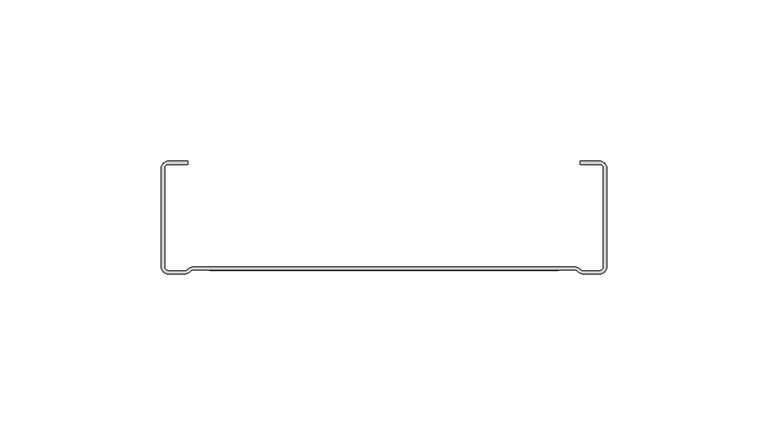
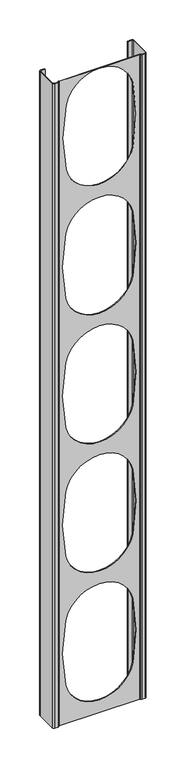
"""IFC4 building model written with IfcOpenShell, lengths in millimetres: proxy geometry, afs-LW-Stud-150 : afs-LW-Stud-150."""

from ifc_helpers import new_model, si_unit, frame, origin, place, context, project, spatial, polyline, circle_curve, source, transform, mapped, element, save
from ifc_brep_helpers import plane_surface, cylinder_surface, revolved_surface, advanced_brep


def generic_models_b1731cb6(model_context):
    return source(origin(), model_context, "Body", "AdvancedBrep", [
        advanced_brep(
        [(69.0, 32.75, 1040.0), (66.75, 35.0, 1040.0), (60.75, 35.0, 1040.0), (60.75, 34.0, 1040.0), (66.75, 34.0, 1040.0), (68.0, 32.75, 1040.0), (68.0, 2.25, 1040.0), (66.75, 1.0, 1040.0), (61.75, 1.0, 1040.0), (60.819723, 1.4150841, 1040.0), (59.0795419, 2.2, 1040.0), (0.0, 2.2, 1040.0), (-59.0795419, 2.2, 1040.0), (-60.819723, 1.4150841, 1040.0), (-61.75, 1.0, 1040.0), (-66.75, 1.0, 1040.0), (-68.0, 2.25, 1040.0), (-68.0, 32.75, 1040.0), (-66.75, 34.0, 1040.0), (-60.75, 34.0, 1040.0), (-60.75, 35.0, 1040.0), (-66.75, 35.0, 1040.0), (-69.0, 32.75, 1040.0), (-69.0, 2.25, 1040.0), (-66.75, 0.0, 1040.0), (-61.75, 0.0, 1040.0), (-60.0632084, 0.760962, 1040.0), (-59.0795419, 1.2, 1040.0), (0.0, 1.2, 1040.0), (59.0795419, 1.2, 1040.0), (60.0632084, 0.760962, 1040.0), (61.75, 0.0, 1040.0), (66.75, 0.0, 1040.0), (69.0, 2.25, 1040.0), (66.75, 35.0, 40.0), (69.0, 32.75, 40.0), (69.0, 2.25, 40.0), (66.75, 0.0, 40.0), (61.75, 0.0, 40.0), (60.0632084, 0.760962, 40.0), (59.0795419, 1.2, 40.0), (-59.0795419, 1.2, 40.0), (-60.0632084, 0.760962, 40.0), (-61.75, 0.0, 40.0), (-66.75, 0.0, 40.0), (-69.0, 2.25, 40.0), (-69.0, 32.75, 40.0), (-66.75, 35.0, 40.0), (-60.75, 35.0, 40.0), (-60.75, 34.0, 40.0), (-66.75, 34.0, 40.0), (-68.0, 32.75, 40.0), (-68.0, 2.25, 40.0), (-66.75, 1.0, 40.0), (-61.75, 1.0, 40.0), (-60.819723, 1.4150841, 40.0), (-59.0795419, 2.2, 40.0), (59.0795419, 2.2, 40.0), (60.819723, 1.4150841, 40.0), (61.75, 1.0, 40.0), (66.75, 1.0, 40.0), (68.0, 2.25, 40.0), (68.0, 32.75, 40.0), (66.75, 34.0, 40.0), (60.75, 34.0, 40.0), (60.75, 35.0, 40.0), (-49.009901, 2.2, 999.9009901), (-49.009901, 2.2, 900.0990099), (49.009901, 2.2, 900.0990099), (49.009901, 2.2, 999.9009901), (-49.009901, 2.2, 399.9009901), (-49.009901, 2.2, 300.0990099), (49.009901, 2.2, 300.0990099), (49.009901, 2.2, 399.9009901), (-49.009901, 2.2, 599.9009901), (-49.009901, 2.2, 500.0990099), (49.009901, 2.2, 500.0990099), (49.009901, 2.2, 599.9009901), (-49.009901, 2.2, 799.9009901), (-49.009901, 2.2, 700.0990099), (49.009901, 2.2, 700.0990099), (49.009901, 2.2, 799.9009901), (-49.009901, 2.2, 199.9009901), (-49.009901, 2.2, 100.0990099), (49.009901, 2.2, 100.0990099), (49.009901, 2.2, 199.9009901), (49.009901, 1.2, 999.9009901), (49.009901, 1.2, 900.0990099), (-49.009901, 1.2, 900.0990099), (-49.009901, 1.2, 999.9009901), (-49.009901, 1.2, 300.0990099), (-49.009901, 1.2, 399.9009901), (49.009901, 1.2, 399.9009901), (49.009901, 1.2, 300.0990099), (-49.009901, 1.2, 500.0990099), (-49.009901, 1.2, 599.9009901), (49.009901, 1.2, 599.9009901), (49.009901, 1.2, 500.0990099), (-49.009901, 1.2, 700.0990099), (-49.009901, 1.2, 799.9009901), (49.009901, 1.2, 799.9009901), (49.009901, 1.2, 700.0990099), (-49.009901, 1.2, 100.0990099), (-49.009901, 1.2, 199.9009901), (49.009901, 1.2, 199.9009901), (49.009901, 1.2, 100.0990099)],
        [
            (0, 1, circle_curve(frame((66.75, 32.75, 1040.0), z_axis=(0.0, 0.0, 1.0), x_axis=(1.0, 0.0, 0.0)), 2.25)),
            (1, 2),
            (2, 3),
            (3, 4),
            (4, 5, circle_curve(frame((66.75, 32.75, 1040.0), z_axis=(0.0, 0.0, -1.0), x_axis=(1.0, 0.0, 0.0)), 1.25)),
            (5, 6),
            (6, 7, circle_curve(frame((66.75, 2.25, 1040.0), z_axis=(0.0, 0.0, -1.0), x_axis=(1.0, 0.0, 0.0)), 1.25)),
            (7, 8),
            (8, 9, circle_curve(frame((61.75, 2.25, 1040.0), z_axis=(0.0, 0.0, -1.0), x_axis=(1.0, 0.0, 0.0)), 1.25)),
            (9, 10, circle_curve(frame((59.0795419, -0.1214736, 1040.0), z_axis=(0.0, 0.0, 1.0), x_axis=(1.0, 0.0, 0.0)), 2.3214736)),
            (10, 11),
            (11, 12),
            (12, 13, circle_curve(frame((-59.0795419, -0.1214736, 1040.0), z_axis=(0.0, 0.0, 1.0), x_axis=(1.0, 0.0, 0.0)), 2.3214736)),
            (13, 14, circle_curve(frame((-61.75, 2.25, 1040.0), z_axis=(0.0, 0.0, -1.0), x_axis=(1.0, 0.0, 0.0)), 1.25)),
            (14, 15),
            (15, 16, circle_curve(frame((-66.75, 2.25, 1040.0), z_axis=(0.0, 0.0, -1.0), x_axis=(1.0, 0.0, 0.0)), 1.25)),
            (16, 17),
            (17, 18, circle_curve(frame((-66.75, 32.75, 1040.0), z_axis=(0.0, 0.0, -1.0), x_axis=(1.0, 0.0, 0.0)), 1.25)),
            (18, 19),
            (19, 20),
            (20, 21),
            (21, 22, circle_curve(frame((-66.75, 32.75, 1040.0), z_axis=(0.0, 0.0, 1.0), x_axis=(1.0, 0.0, 0.0)), 2.25)),
            (22, 23),
            (23, 24, circle_curve(frame((-66.75, 2.25, 1040.0), z_axis=(0.0, 0.0, 1.0), x_axis=(1.0, 0.0, 0.0)), 2.25)),
            (24, 25),
            (25, 26, circle_curve(frame((-61.75, 2.25, 1040.0), z_axis=(0.0, 0.0, 1.0), x_axis=(1.0, 0.0, 0.0)), 2.25)),
            (26, 27, circle_curve(frame((-59.0795419, -0.1214736, 1040.0), z_axis=(0.0, 0.0, -1.0), x_axis=(1.0, 0.0, 0.0)), 1.3214736)),
            (27, 28),
            (28, 29),
            (29, 30, circle_curve(frame((59.0795419, -0.1214736, 1040.0), z_axis=(0.0, 0.0, -1.0), x_axis=(1.0, 0.0, 0.0)), 1.3214736)),
            (30, 31, circle_curve(frame((61.75, 2.25, 1040.0), z_axis=(0.0, 0.0, 1.0), x_axis=(1.0, 0.0, 0.0)), 2.25)),
            (31, 32),
            (32, 33, circle_curve(frame((66.75, 2.25, 1040.0), z_axis=(0.0, 0.0, 1.0), x_axis=(1.0, 0.0, 0.0)), 2.25)),
            (33, 0),
            (34, 35, circle_curve(frame((66.75, 32.75, 40.0), z_axis=(0.0, 0.0, -1.0), x_axis=(1.0, 0.0, 0.0)), 2.25)),
            (35, 36),
            (36, 37, circle_curve(frame((66.75, 2.25, 40.0), z_axis=(0.0, 0.0, -1.0), x_axis=(1.0, 0.0, 0.0)), 2.25)),
            (37, 38),
            (38, 39, circle_curve(frame((61.75, 2.25, 40.0), z_axis=(0.0, 0.0, -1.0), x_axis=(1.0, 0.0, 0.0)), 2.25)),
            (39, 40, circle_curve(frame((59.0795419, -0.1214736, 40.0), z_axis=(0.0, 0.0, 1.0), x_axis=(1.0, 0.0, 0.0)), 1.3214736)),
            (40, 41),
            (41, 42, circle_curve(frame((-59.0795419, -0.1214736, 40.0), z_axis=(0.0, 0.0, 1.0), x_axis=(1.0, 0.0, 0.0)), 1.3214736)),
            (42, 43, circle_curve(frame((-61.75, 2.25, 40.0), z_axis=(0.0, 0.0, -1.0), x_axis=(1.0, 0.0, 0.0)), 2.25)),
            (43, 44),
            (44, 45, circle_curve(frame((-66.75, 2.25, 40.0), z_axis=(0.0, 0.0, -1.0), x_axis=(1.0, 0.0, 0.0)), 2.25)),
            (45, 46),
            (46, 47, circle_curve(frame((-66.75, 32.75, 40.0), z_axis=(0.0, 0.0, -1.0), x_axis=(1.0, 0.0, 0.0)), 2.25)),
            (47, 48),
            (48, 49),
            (49, 50),
            (50, 51, circle_curve(frame((-66.75, 32.75, 40.0), z_axis=(0.0, 0.0, 1.0), x_axis=(1.0, 0.0, 0.0)), 1.25)),
            (51, 52),
            (52, 53, circle_curve(frame((-66.75, 2.25, 40.0), z_axis=(0.0, 0.0, 1.0), x_axis=(1.0, 0.0, 0.0)), 1.25)),
            (53, 54),
            (54, 55, circle_curve(frame((-61.75, 2.25, 40.0), z_axis=(0.0, 0.0, 1.0), x_axis=(1.0, 0.0, 0.0)), 1.25)),
            (55, 56, circle_curve(frame((-59.0795419, -0.1214736, 40.0), z_axis=(0.0, 0.0, -1.0), x_axis=(1.0, 0.0, 0.0)), 2.3214736)),
            (56, 57),
            (57, 58, circle_curve(frame((59.0795419, -0.1214736, 40.0), z_axis=(0.0, 0.0, -1.0), x_axis=(1.0, 0.0, 0.0)), 2.3214736)),
            (58, 59, circle_curve(frame((61.75, 2.25, 40.0), z_axis=(0.0, 0.0, 1.0), x_axis=(1.0, 0.0, 0.0)), 1.25)),
            (59, 60),
            (60, 61, circle_curve(frame((66.75, 2.25, 40.0), z_axis=(0.0, 0.0, 1.0), x_axis=(1.0, 0.0, 0.0)), 1.25)),
            (61, 62),
            (62, 63, circle_curve(frame((66.75, 32.75, 40.0), z_axis=(0.0, 0.0, 1.0), x_axis=(1.0, 0.0, 0.0)), 1.25)),
            (63, 64),
            (64, 65),
            (65, 34),
            (0, 35),
            (34, 1),
            (65, 2),
            (64, 3),
            (63, 4),
            (62, 5),
            (61, 6),
            (60, 7),
            (59, 8),
            (58, 9),
            (57, 10),
            (56, 12),
            (11, 66, circle_curve(frame((0.0, 2.2, 990.0), z_axis=(0.0, -1.0, 0.0), x_axis=(1.0, 0.0, 0.0)), 50.0)),
            (66, 67, circle_curve(frame((198.0, 2.2, 950.0), z_axis=(0.0, -1.0, 0.0), x_axis=(-1.0, 0.0, 0.0)), 252.0)),
            (67, 68, circle_curve(frame((0.0, 2.2, 910.0), z_axis=(0.0, -1.0, 0.0), x_axis=(1.0, 0.0, 0.0)), 50.0)),
            (68, 69, circle_curve(frame((-198.0, 2.2, 950.0), z_axis=(0.0, -1.0, 0.0), x_axis=(1.0, 0.0, 0.0)), 252.0)),
            (69, 11, circle_curve(frame((0.0, 2.2, 990.0), z_axis=(0.0, -1.0, 0.0), x_axis=(1.0, 0.0, 0.0)), 50.0)),
            (70, 71, circle_curve(frame((198.0, 2.2, 350.0), z_axis=(0.0, -1.0, 0.0), x_axis=(-1.0, 0.0, 0.0)), 252.0)),
            (71, 72, circle_curve(frame((0.0, 2.2, 310.0), z_axis=(0.0, -1.0, 0.0), x_axis=(1.0, 0.0, 0.0)), 50.0)),
            (72, 73, circle_curve(frame((-198.0, 2.2, 350.0), z_axis=(0.0, -1.0, 0.0), x_axis=(1.0, 0.0, 0.0)), 252.0)),
            (73, 70, circle_curve(frame((0.0, 2.2, 390.0), z_axis=(0.0, -1.0, 0.0), x_axis=(1.0, 0.0, 0.0)), 50.0)),
            (74, 75, circle_curve(frame((198.0, 2.2, 550.0), z_axis=(0.0, -1.0, 0.0), x_axis=(-1.0, 0.0, 0.0)), 252.0)),
            (75, 76, circle_curve(frame((0.0, 2.2, 510.0), z_axis=(0.0, -1.0, 0.0), x_axis=(1.0, 0.0, 0.0)), 50.0)),
            (76, 77, circle_curve(frame((-198.0, 2.2, 550.0), z_axis=(0.0, -1.0, 0.0), x_axis=(1.0, 0.0, 0.0)), 252.0)),
            (77, 74, circle_curve(frame((0.0, 2.2, 590.0), z_axis=(0.0, -1.0, 0.0), x_axis=(1.0, 0.0, 0.0)), 50.0)),
            (78, 79, circle_curve(frame((198.0, 2.2, 750.0), z_axis=(0.0, -1.0, 0.0), x_axis=(-1.0, 0.0, 0.0)), 252.0)),
            (79, 80, circle_curve(frame((0.0, 2.2, 710.0), z_axis=(0.0, -1.0, 0.0), x_axis=(1.0, 0.0, 0.0)), 50.0)),
            (80, 81, circle_curve(frame((-198.0, 2.2, 750.0), z_axis=(0.0, -1.0, 0.0), x_axis=(1.0, 0.0, 0.0)), 252.0)),
            (81, 78, circle_curve(frame((0.0, 2.2, 790.0), z_axis=(0.0, -1.0, 0.0), x_axis=(1.0, 0.0, 0.0)), 50.0)),
            (82, 83, circle_curve(frame((198.0, 2.2, 150.0), z_axis=(0.0, -1.0, 0.0), x_axis=(-1.0, 0.0, 0.0)), 252.0)),
            (83, 84, circle_curve(frame((0.0, 2.2, 110.0), z_axis=(0.0, -1.0, 0.0), x_axis=(1.0, 0.0, 0.0)), 50.0)),
            (84, 85, circle_curve(frame((-198.0, 2.2, 150.0), z_axis=(0.0, -1.0, 0.0), x_axis=(1.0, 0.0, 0.0)), 252.0)),
            (85, 82, circle_curve(frame((0.0, 2.2, 190.0), z_axis=(0.0, -1.0, 0.0), x_axis=(1.0, 0.0, 0.0)), 50.0)),
            (55, 13),
            (54, 14),
            (53, 15),
            (52, 16),
            (51, 17),
            (50, 18),
            (49, 19),
            (48, 20),
            (47, 21),
            (46, 22),
            (45, 23),
            (44, 24),
            (43, 25),
            (42, 26),
            (41, 27),
            (40, 29),
            (28, 86, circle_curve(frame((0.0, 1.2, 990.0), z_axis=(0.0, 1.0, 0.0), x_axis=(1.0, 0.0, 0.0)), 50.0)),
            (86, 87, circle_curve(frame((-198.0, 1.2, 950.0), z_axis=(0.0, 1.0, 0.0), x_axis=(1.0, 0.0, 0.0)), 252.0)),
            (87, 88, circle_curve(frame((0.0, 1.2, 910.0), z_axis=(0.0, 1.0, 0.0), x_axis=(1.0, 0.0, 0.0)), 50.0)),
            (88, 89, circle_curve(frame((198.0, 1.2, 950.0), z_axis=(0.0, 1.0, 0.0), x_axis=(-1.0, 0.0, 0.0)), 252.0)),
            (89, 28, circle_curve(frame((0.0, 1.2, 990.0), z_axis=(0.0, 1.0, 0.0), x_axis=(1.0, 0.0, 0.0)), 50.0)),
            (90, 91, circle_curve(frame((198.0, 1.2, 350.0), z_axis=(0.0, 1.0, 0.0), x_axis=(-1.0, 0.0, 0.0)), 252.0)),
            (91, 92, circle_curve(frame((0.0, 1.2, 390.0), z_axis=(0.0, 1.0, 0.0), x_axis=(1.0, 0.0, 0.0)), 50.0)),
            (92, 93, circle_curve(frame((-198.0, 1.2, 350.0), z_axis=(0.0, 1.0, 0.0), x_axis=(1.0, 0.0, 0.0)), 252.0)),
            (93, 90, circle_curve(frame((0.0, 1.2, 310.0), z_axis=(0.0, 1.0, 0.0), x_axis=(1.0, 0.0, 0.0)), 50.0)),
            (94, 95, circle_curve(frame((198.0, 1.2, 550.0), z_axis=(0.0, 1.0, 0.0), x_axis=(-1.0, 0.0, 0.0)), 252.0)),
            (95, 96, circle_curve(frame((0.0, 1.2, 590.0), z_axis=(0.0, 1.0, 0.0), x_axis=(1.0, 0.0, 0.0)), 50.0)),
            (96, 97, circle_curve(frame((-198.0, 1.2, 550.0), z_axis=(0.0, 1.0, 0.0), x_axis=(1.0, 0.0, 0.0)), 252.0)),
            (97, 94, circle_curve(frame((0.0, 1.2, 510.0), z_axis=(0.0, 1.0, 0.0), x_axis=(1.0, 0.0, 0.0)), 50.0)),
            (98, 99, circle_curve(frame((198.0, 1.2, 750.0), z_axis=(0.0, 1.0, 0.0), x_axis=(-1.0, 0.0, 0.0)), 252.0)),
            (99, 100, circle_curve(frame((0.0, 1.2, 790.0), z_axis=(0.0, 1.0, 0.0), x_axis=(1.0, 0.0, 0.0)), 50.0)),
            (100, 101, circle_curve(frame((-198.0, 1.2, 750.0), z_axis=(0.0, 1.0, 0.0), x_axis=(1.0, 0.0, 0.0)), 252.0)),
            (101, 98, circle_curve(frame((0.0, 1.2, 710.0), z_axis=(0.0, 1.0, 0.0), x_axis=(1.0, 0.0, 0.0)), 50.0)),
            (102, 103, circle_curve(frame((198.0, 1.2, 150.0), z_axis=(0.0, 1.0, 0.0), x_axis=(-1.0, 0.0, 0.0)), 252.0)),
            (103, 104, circle_curve(frame((0.0, 1.2, 190.0), z_axis=(0.0, 1.0, 0.0), x_axis=(1.0, 0.0, 0.0)), 50.0)),
            (104, 105, circle_curve(frame((-198.0, 1.2, 150.0), z_axis=(0.0, 1.0, 0.0), x_axis=(1.0, 0.0, 0.0)), 252.0)),
            (105, 102, circle_curve(frame((0.0, 1.2, 110.0), z_axis=(0.0, 1.0, 0.0), x_axis=(1.0, 0.0, 0.0)), 50.0)),
            (39, 30),
            (38, 31),
            (37, 32),
            (36, 33),
            (90, 71),
            (70, 91),
            (73, 92),
            (72, 93),
            (94, 75),
            (74, 95),
            (77, 96),
            (76, 97),
            (98, 79),
            (78, 99),
            (81, 100),
            (80, 101),
            (88, 67),
            (66, 89),
            (69, 86),
            (68, 87),
            (102, 83),
            (82, 103),
            (85, 104),
            (84, 105),
        ],
        [
            plane_surface(frame((69.0, 32.75, 1040.0), z_axis=(0.0, 0.0, 1.0), x_axis=(0.0, 1.0, 0.0))),
            plane_surface(frame((69.0, 32.75, 40.0), z_axis=(0.0, 0.0, -1.0), x_axis=(0.0, -1.0, 0.0))),
            cylinder_surface(frame((66.75, 32.75, 40.0), z_axis=(0.0, 0.0, 1.0), x_axis=(1.0, 0.0, 0.0)), 2.25),
            plane_surface(frame((66.75, 35.0, 1040.0), z_axis=(0.0, 1.0, 0.0), x_axis=(0.0, 0.0, -1.0))),
            plane_surface(frame((60.75, 35.0, 1040.0), z_axis=(-1.0, 0.0, 0.0), x_axis=(0.0, 0.0, -1.0))),
            plane_surface(frame((60.75, 34.0, 1040.0), z_axis=(0.0, -1.0, 0.0), x_axis=(0.0, 0.0, -1.0))),
            revolved_surface(polyline([(68.0, 32.75, 40.0), (68.0, 32.75, 1040.0)]), (66.75, 32.75, 40.0), (0.0, 0.0, -1.0)),
            plane_surface(frame((68.0, 32.75, 1040.0), z_axis=(-1.0, 0.0, 0.0), x_axis=(0.0, 0.0, -1.0))),
            revolved_surface(polyline([(68.0, 2.25, 40.0), (68.0, 2.25, 1040.0)]), (66.75, 2.25, 40.0), (0.0, 0.0, -1.0)),
            plane_surface(frame((66.75, 1.0, 1040.0), z_axis=(0.0, 1.0, 0.0), x_axis=(0.0, 0.0, -1.0))),
            revolved_surface(polyline([(63.0, 2.25, 40.0), (63.0, 2.25, 1040.0)]), (61.75, 2.25, 40.0), (0.0, 0.0, -1.0)),
            cylinder_surface(frame((59.0795419, -0.1214736, 40.0), z_axis=(0.0, 0.0, 1.0), x_axis=(1.0, 0.0, 0.0)), 2.3214736),
            plane_surface(frame((59.0795419, 2.2, 1040.0), z_axis=(0.0, 1.0, 0.0), x_axis=(0.0, 0.0, -1.0))),
            cylinder_surface(frame((-59.0795419, -0.1214736, 40.0), z_axis=(0.0, 0.0, 1.0), x_axis=(1.0, 0.0, 0.0)), 2.3214736),
            revolved_surface(polyline([(-60.5, 2.25, 40.0), (-60.5, 2.25, 1040.0)]), (-61.75, 2.25, 40.0), (0.0, 0.0, -1.0)),
            plane_surface(frame((-61.75, 1.0, 1040.0), z_axis=(0.0, 1.0, 0.0), x_axis=(0.0, 0.0, -1.0))),
            revolved_surface(polyline([(-65.5, 2.25, 40.0), (-65.5, 2.25, 1040.0)]), (-66.75, 2.25, 40.0), (0.0, 0.0, -1.0)),
            plane_surface(frame((-68.0, 2.25, 1040.0), z_axis=(1.0, 0.0, 0.0), x_axis=(0.0, 0.0, -1.0))),
            revolved_surface(polyline([(-65.5, 32.75, 40.0), (-65.5, 32.75, 1040.0)]), (-66.75, 32.75, 40.0), (0.0, 0.0, -1.0)),
            plane_surface(frame((-66.75, 34.0, 1040.0), z_axis=(0.0, -1.0, 0.0), x_axis=(0.0, 0.0, -1.0))),
            plane_surface(frame((-60.75, 34.0, 1040.0), z_axis=(1.0, 0.0, 0.0), x_axis=(0.0, 0.0, -1.0))),
            plane_surface(frame((-60.75, 35.0, 1040.0), z_axis=(0.0, 1.0, 0.0), x_axis=(0.0, 0.0, -1.0))),
            cylinder_surface(frame((-66.75, 32.75, 40.0), z_axis=(0.0, 0.0, 1.0), x_axis=(1.0, 0.0, 0.0)), 2.25),
            plane_surface(frame((-69.0, 32.75, 1040.0), z_axis=(-1.0, 0.0, 0.0), x_axis=(0.0, 0.0, -1.0))),
            cylinder_surface(frame((-66.75, 2.25, 40.0), z_axis=(0.0, 0.0, 1.0), x_axis=(1.0, 0.0, 0.0)), 2.25),
            plane_surface(frame((-66.75, 0.0, 1040.0), z_axis=(0.0, -1.0, 0.0), x_axis=(0.0, 0.0, -1.0))),
            cylinder_surface(frame((-61.75, 2.25, 40.0), z_axis=(0.0, 0.0, 1.0), x_axis=(1.0, 0.0, 0.0)), 2.25),
            revolved_surface(polyline([(-57.758068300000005, -0.1214736, 40.0), (-57.758068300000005, -0.1214736, 1040.0)]), (-59.0795419, -0.1214736, 40.0), (0.0, 0.0, -1.0)),
            plane_surface(frame((-59.0795419, 1.2, 1040.0), z_axis=(0.0, -1.0, 0.0), x_axis=(0.0, 0.0, -1.0))),
            revolved_surface(polyline([(60.4010155, -0.1214736, 40.0), (60.4010155, -0.1214736, 1040.0)]), (59.0795419, -0.1214736, 40.0), (0.0, 0.0, -1.0)),
            cylinder_surface(frame((61.75, 2.25, 40.0), z_axis=(0.0, 0.0, 1.0), x_axis=(1.0, 0.0, 0.0)), 2.25),
            plane_surface(frame((61.75, 0.0, 1040.0), z_axis=(0.0, -1.0, 0.0), x_axis=(0.0, 0.0, -1.0))),
            cylinder_surface(frame((66.75, 2.25, 40.0), z_axis=(0.0, 0.0, 1.0), x_axis=(1.0, 0.0, 0.0)), 2.25),
            plane_surface(frame((69.0, 2.25, 1040.0), z_axis=(1.0, 0.0, 0.0), x_axis=(0.0, 0.0, -1.0))),
            revolved_surface(polyline([(-54.0, 2.200000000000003, 350.0), (-54.0, 1.2000000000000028, 350.0)]), (198.0, -98.8, 350.0), (0.0, 1.0, 0.0)),
            revolved_surface(polyline([(50.0, 2.200000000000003, 390.0), (50.0, 1.2000000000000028, 390.0)]), (0.0, -98.8, 390.0), (0.0, 1.0, 0.0)),
            revolved_surface(polyline([(54.0, 2.200000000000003, 350.0), (54.0, 1.2000000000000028, 350.0)]), (-198.0, -98.8, 350.0), (0.0, 1.0, 0.0)),
            revolved_surface(polyline([(50.0, 2.200000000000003, 310.0), (50.0, 1.2000000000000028, 310.0)]), (0.0, -98.8, 310.0), (0.0, 1.0, 0.0)),
            revolved_surface(polyline([(-54.0, 2.200000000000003, 550.0), (-54.0, 1.2000000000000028, 550.0)]), (198.0, -98.8, 550.0), (0.0, 1.0, 0.0)),
            revolved_surface(polyline([(50.0, 2.200000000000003, 590.0), (50.0, 1.2000000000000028, 590.0)]), (0.0, -98.8, 590.0), (0.0, 1.0, 0.0)),
            revolved_surface(polyline([(54.0, 2.200000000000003, 550.0), (54.0, 1.2000000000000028, 550.0)]), (-198.0, -98.8, 550.0), (0.0, 1.0, 0.0)),
            revolved_surface(polyline([(50.0, 2.200000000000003, 510.0), (50.0, 1.2000000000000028, 510.0)]), (0.0, -98.8, 510.0), (0.0, 1.0, 0.0)),
            revolved_surface(polyline([(-54.0, 2.200000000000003, 750.0), (-54.0, 1.2000000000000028, 750.0)]), (198.0, -98.8, 750.0), (0.0, 1.0, 0.0)),
            revolved_surface(polyline([(50.0, 2.200000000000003, 790.0), (50.0, 1.2000000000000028, 790.0)]), (0.0, -98.8, 790.0), (0.0, 1.0, 0.0)),
            revolved_surface(polyline([(54.0, 2.200000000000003, 750.0), (54.0, 1.2000000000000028, 750.0)]), (-198.0, -98.8, 750.0), (0.0, 1.0, 0.0)),
            revolved_surface(polyline([(50.0, 2.200000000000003, 710.0), (50.0, 1.2000000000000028, 710.0)]), (0.0, -98.8, 710.0), (0.0, 1.0, 0.0)),
            revolved_surface(polyline([(-54.0, 2.200000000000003, 950.0), (-54.0, 1.2000000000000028, 950.0)]), (198.0, -98.8, 950.0), (0.0, 1.0, 0.0)),
            revolved_surface(polyline([(50.0, 2.200000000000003, 990.0), (50.0, 1.2000000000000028, 990.0)]), (0.0, -98.8, 990.0), (0.0, 1.0, 0.0)),
            revolved_surface(polyline([(54.0, 2.200000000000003, 950.0), (54.0, 1.2000000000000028, 950.0)]), (-198.0, -98.8, 950.0), (0.0, 1.0, 0.0)),
            revolved_surface(polyline([(50.0, 2.200000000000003, 910.0), (50.0, 1.2000000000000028, 910.0)]), (0.0, -98.8, 910.0), (0.0, 1.0, 0.0)),
            revolved_surface(polyline([(-54.0, 2.200000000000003, 150.0), (-54.0, 1.2000000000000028, 150.0)]), (198.0, -98.8, 150.0), (0.0, 1.0, 0.0)),
            revolved_surface(polyline([(50.0, 2.200000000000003, 190.0), (50.0, 1.2000000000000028, 190.0)]), (0.0, -98.8, 190.0), (0.0, 1.0, 0.0)),
            revolved_surface(polyline([(54.0, 2.200000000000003, 150.0), (54.0, 1.2000000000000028, 150.0)]), (-198.0, -98.8, 150.0), (0.0, 1.0, 0.0)),
            revolved_surface(polyline([(50.0, 2.200000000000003, 110.0), (50.0, 1.2000000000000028, 110.0)]), (0.0, -98.8, 110.0), (0.0, 1.0, 0.0)),
        ],
        [
            (0, [[1, 2, 3, 4, 5, 6, 7, 8, 9, 10, 11, 12, 13, 14, 15, 16, 17, 18, 19, 20, 21, 22, 23, 24, 25, 26, 27, 28, 29, 30, 31, 32, 33, 34]]),
            (1, [[35, 36, 37, 38, 39, 40, 41, 42, 43, 44, 45, 46, 47, 48, 49, 50, 51, 52, 53, 54, 55, 56, 57, 58, 59, 60, 61, 62, 63, 64, 65, 66]]),
            (2, [[-1, 67, -35, 68]]),
            (3, [[-2, -68, -66, 69]]),
            (4, [[-3, -69, -65, 70]]),
            (5, [[-4, -70, -64, 71]]),
            (6, [[-5, -71, -63, 72]]),
            (7, [[-6, -72, -62, 73]]),
            (8, [[-7, -73, -61, 74]]),
            (9, [[-8, -74, -60, 75]]),
            (10, [[-9, -75, -59, 76]]),
            (11, [[-10, -76, -58, 77]]),
            (12, [[-57, 78, -12, 79, 80, 81, 82, 83, -11, -77], [84, 85, 86, 87], [88, 89, 90, 91], [92, 93, 94, 95], [96, 97, 98, 99]]),
            (13, [[-13, -78, -56, 100]]),
            (14, [[-14, -100, -55, 101]]),
            (15, [[-15, -101, -54, 102]]),
            (16, [[-16, -102, -53, 103]]),
            (17, [[-17, -103, -52, 104]]),
            (18, [[-18, -104, -51, 105]]),
            (19, [[-19, -105, -50, 106]]),
            (20, [[-20, -106, -49, 107]]),
            (21, [[-21, -107, -48, 108]]),
            (22, [[-22, -108, -47, 109]]),
            (23, [[-23, -109, -46, 110]]),
            (24, [[-24, -110, -45, 111]]),
            (25, [[-25, -111, -44, 112]]),
            (26, [[-26, -112, -43, 113]]),
            (27, [[-27, -113, -42, 114]]),
            (28, [[-41, 115, -29, 116, 117, 118, 119, 120, -28, -114], [121, 122, 123, 124], [125, 126, 127, 128], [129, 130, 131, 132], [133, 134, 135, 136]]),
            (29, [[-30, -115, -40, 137]]),
            (30, [[-31, -137, -39, 138]]),
            (31, [[-32, -138, -38, 139]]),
            (32, [[-33, -139, -37, 140]]),
            (33, [[-34, -140, -36, -67]]),
            (34, [[141, -84, 142, -121]]),
            (35, [[-142, -87, 143, -122]]),
            (36, [[-143, -86, 144, -123]]),
            (37, [[-141, -124, -144, -85]]),
            (38, [[145, -88, 146, -125]]),
            (39, [[-146, -91, 147, -126]]),
            (40, [[-147, -90, 148, -127]]),
            (41, [[-145, -128, -148, -89]]),
            (42, [[149, -92, 150, -129]]),
            (43, [[-150, -95, 151, -130]]),
            (44, [[-151, -94, 152, -131]]),
            (45, [[-149, -132, -152, -93]]),
            (46, [[153, -80, 154, -119]]),
            (47, [[-154, -79, -83, 155, -116, -120]]),
            (48, [[-155, -82, 156, -117]]),
            (49, [[-153, -118, -156, -81]]),
            (50, [[157, -96, 158, -133]]),
            (51, [[-158, -99, 159, -134]]),
            (52, [[-159, -98, 160, -135]]),
            (53, [[-157, -136, -160, -97]]),
        ],
    ),
    ])


if __name__ == "__main__":
    model = new_model("IFC4")
    model_context = context("Model", 3, world=origin())
    ifc_project = project(units=[si_unit("LENGTHUNIT", "METRE", prefix="MILLI")], contexts=[model_context])
    site = spatial("IfcSite", under=ifc_project)
    building = spatial("IfcBuilding", under=site)
    placement = place(None, origin())
    generic_models_shape = generic_models_b1731cb6(model_context)
    element("IfcBuildingElementProxy", 1, Name="afs-LW-Stud-150 : afs-LW-Stud-150", ObjectType="afs-LW-Stud-150 : afs-LW-Stud-150", at=placement, inside=building, context=model_context, shape_type="MappedRepresentation", body=[
        mapped(generic_models_shape, transform((0.0, 0.0, 0.0), x_axis=(1.0, 0.0, 0.0), y_axis=(0.0, 1.0, 0.0), z_axis=(0.0, 0.0, 1.0))),
    ])
    save(model, "model.ifc")
